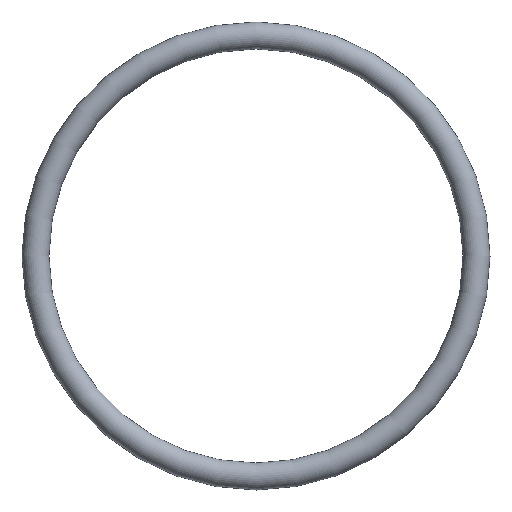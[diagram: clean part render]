
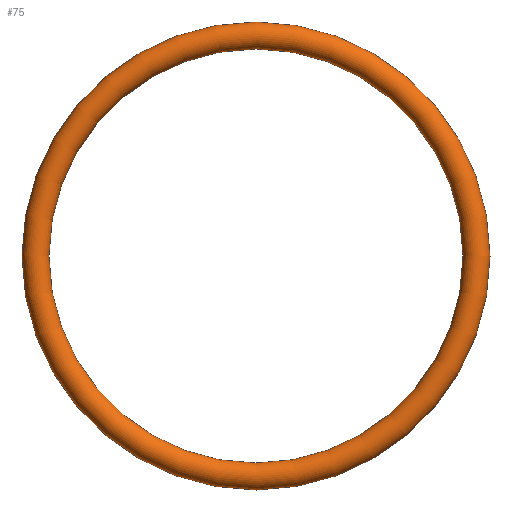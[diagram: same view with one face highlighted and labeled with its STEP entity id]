
A CAD part, front view. The second image highlights one B-rep face of the part: STEP entity #75.
In plain terms, the highlighted toroidal (fillet/blend) face has major radius 12.25 mm and minor radius 0.75 mm.
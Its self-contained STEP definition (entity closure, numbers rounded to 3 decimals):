
#75 = ADVANCED_FACE( '', ( #77 ), #78, .T. );
#77 = FACE_BOUND( '', #79, .T. );
#78 = TOROIDAL_SURFACE( '', #80, 12.25, 0.75 );
#79 = VERTEX_LOOP( '', #81 );
#80 = AXIS2_PLACEMENT_3D( '', #82, #83, #84 );
#81 = VERTEX_POINT( '', #85 );
#82 = CARTESIAN_POINT( '', ( 0., 0., 0. ) );
#83 = DIRECTION( '', ( 0., -1., 0. ) );
#84 = DIRECTION( '', ( 0., 0., -1. ) );
#85 = CARTESIAN_POINT( '', ( 0., 0., -13. ) );
